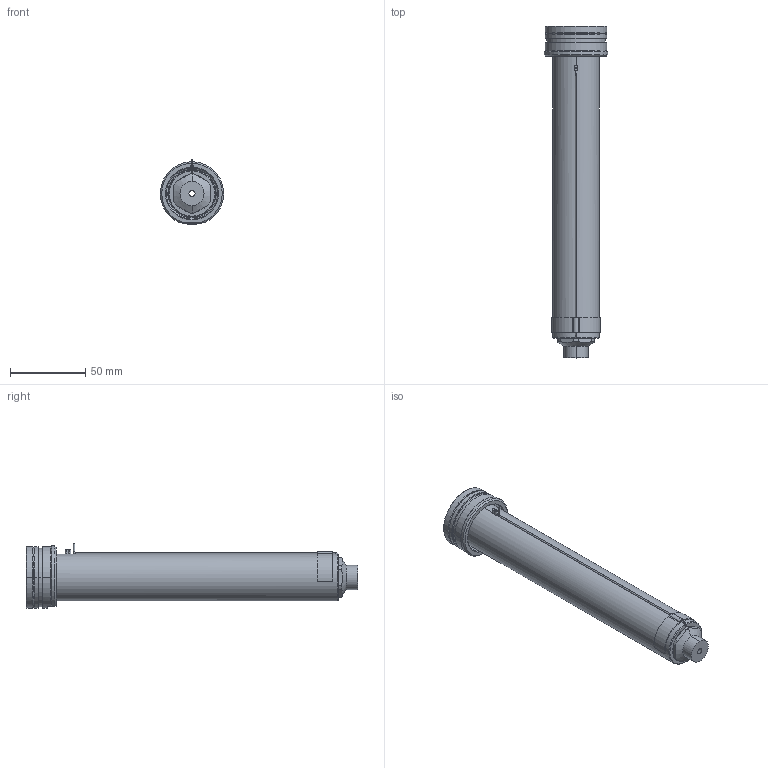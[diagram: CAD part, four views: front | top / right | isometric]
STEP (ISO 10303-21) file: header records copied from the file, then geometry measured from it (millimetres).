
FILE_DESCRIPTION((''),'2;1');
FILE_NAME('EO12_VG-FB_WR_200_SW','2024-02-19T13:41:45',('sundharh'),(''),'CREO PARAMETRIC BY PTC INC, 2023154','CREO PARAMETRIC BY PTC INC, 2023154','');
FILE_SCHEMA(('CONFIG_CONTROL_DESIGN'));
Length unit declared in the file: millimetre
Products named in the file (1): EO12_VG-FB_WR_200_SW
Bounding box: 41.85 x 220 x 43 mm (x, y, z)
Volume: 144820 mm3; surface area: 37787.5 mm2
Topology: 2 solids, 3 shells, 209 faces, 509 edges, 307 vertices
Faces by surface type: cylinder 73, plane 47, cone 41, torus 37, bspline 9, sphere 2
Entity records: 7013 total; most frequent: CARTESIAN_POINT 1984, DIRECTION 1134, ORIENTED_EDGE 1010, EDGE_CURVE 505, AXIS2_PLACEMENT_3D 480, VERTEX_POINT 307, CIRCLE 280, EDGE_LOOP 226
